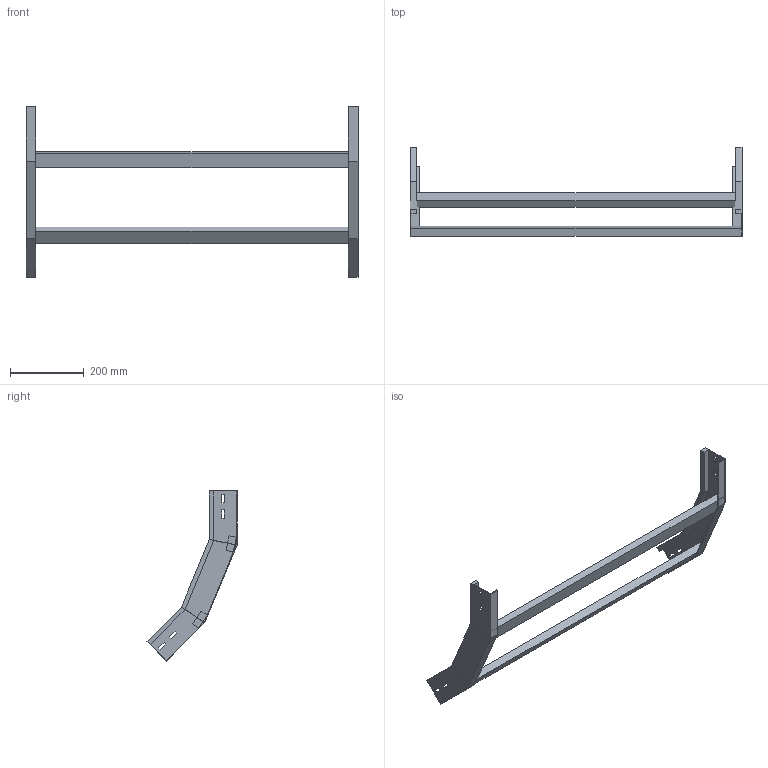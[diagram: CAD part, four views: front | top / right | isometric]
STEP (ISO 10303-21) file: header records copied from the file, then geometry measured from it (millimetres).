
FILE_DESCRIPTION (( 'STEP AP214' ), '1' );
FILE_NAME ('A2X31B5C900XX.step', '2025-03-20T10:09:54', ( '' ), ( '' ), 'SwSTEP 2.0', 'SolidWorks 2023', '' );
FILE_SCHEMA (( 'AUTOMOTIVE_DESIGN' ));
Length unit declared in the file: millimetre
Products named in the file (3): LONGH.SALITA_45°_H75_R500; A2X31B5C900XX; TRAVERSINO_900
Assembly tree (4 placements, depth 2):
  A2X31B5C900XX
    LONGH.SALITA_45°_H75_R500  x2
    TRAVERSINO_900  x2
Bounding box: 900 x 244.02 x 461.09 mm (x, y, z)
Volume: 1827721.5 mm3; surface area: 453421.9 mm2
Topology: 4 solids, 4 shells, 96 faces, 232 edges, 144 vertices
Faces by surface type: plane 96
Entity records: 1472 total; most frequent: CARTESIAN_POINT 243, ORIENTED_EDGE 232, DIRECTION 226, VECTOR 116, EDGE_CURVE 116, LINE 116, VERTEX_POINT 72, EDGE_LOOP 56
